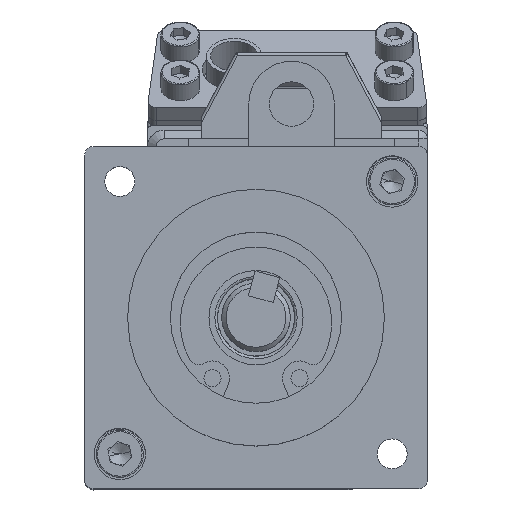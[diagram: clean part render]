
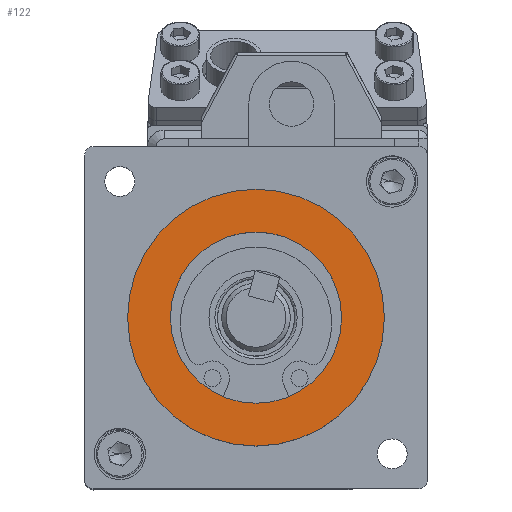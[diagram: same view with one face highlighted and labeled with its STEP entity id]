
A CAD part, top view. The second image highlights one B-rep face of the part: STEP entity #122.
In plain terms, the highlighted planar face has unit normal (0, 0, 1).
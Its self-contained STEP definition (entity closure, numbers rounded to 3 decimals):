
#87 = EDGE_CURVE ( 'NONE', #91, #98, #5410, .T. ) ;
#91 = VERTEX_POINT ( 'NONE', #5464 ) ;
#97 = EDGE_CURVE ( 'NONE', #98, #91, #5454, .T. ) ;
#98 = VERTEX_POINT ( 'NONE', #5449 ) ;
#104 = VERTEX_POINT ( 'NONE', #5437 ) ;
#107 = EDGE_CURVE ( 'NONE', #108, #104, #5360, .T. ) ;
#108 = VERTEX_POINT ( 'NONE', #5355 ) ;
#122 = ADVANCED_FACE ( 'NONE', ( #5266, #5265 ), #5264, .T. ) ;
#123 = ORIENTED_EDGE ( 'NONE', *, *, #107, .F. ) ;
#124 = ORIENTED_EDGE ( 'NONE', *, *, #125, .F. ) ;
#125 = EDGE_CURVE ( 'NONE', #104, #108, #5258, .T. ) ;
#126 = EDGE_LOOP ( 'NONE', ( #127, #128 ) ) ;
#127 = ORIENTED_EDGE ( 'NONE', *, *, #87, .T. ) ;
#128 = ORIENTED_EDGE ( 'NONE', *, *, #97, .T. ) ;
#328 = EDGE_LOOP ( 'NONE', ( #123, #124 ) ) ;
#5255 = DIRECTION ( 'NONE',  ( -1., 0., 0. ) ) ;
#5256 = DIRECTION ( 'NONE',  ( 0., 0., -1. ) ) ;
#5257 = AXIS2_PLACEMENT_3D ( 'NONE', #5262, #5256, #5255 ) ;
#5258 = CIRCLE ( 'NONE', #5257, 15. ) ;
#5259 = DIRECTION ( 'NONE',  ( 1., 0., 0. ) ) ;
#5260 = DIRECTION ( 'NONE',  ( 0., 0., 1. ) ) ;
#5261 = AXIS2_PLACEMENT_3D ( 'NONE', #5263, #5260, #5259 ) ;
#5262 = CARTESIAN_POINT ( 'NONE',  ( 68.478, 20., 115.595 ) ) ;
#5263 = CARTESIAN_POINT ( 'NONE',  ( 68.478, 20., 115.595 ) ) ;
#5264 = PLANE ( 'NONE',  #5261 ) ;
#5265 = FACE_BOUND ( 'NONE', #126, .T. ) ;
#5266 = FACE_OUTER_BOUND ( 'NONE', #328, .T. ) ;
#5355 = CARTESIAN_POINT ( 'NONE',  ( 53.478, 20., 115.595 ) ) ;
#5356 = DIRECTION ( 'NONE',  ( -1., 0., 0. ) ) ;
#5357 = DIRECTION ( 'NONE',  ( 0., 0., -1. ) ) ;
#5358 = CARTESIAN_POINT ( 'NONE',  ( 68.478, 20., 115.595 ) ) ;
#5359 = AXIS2_PLACEMENT_3D ( 'NONE', #5358, #5357, #5356 ) ;
#5360 = CIRCLE ( 'NONE', #5359, 15. ) ;
#5407 = DIRECTION ( 'NONE',  ( 0., 0., -1. ) ) ;
#5408 = CARTESIAN_POINT ( 'NONE',  ( 68.478, 20., 115.595 ) ) ;
#5409 = AXIS2_PLACEMENT_3D ( 'NONE', #5408, #5407, #5467 ) ;
#5410 = CIRCLE ( 'NONE', #5409, 10. ) ;
#5437 = CARTESIAN_POINT ( 'NONE',  ( 83.478, 20., 115.595 ) ) ;
#5449 = CARTESIAN_POINT ( 'NONE',  ( 78.478, 20., 115.595 ) ) ;
#5450 = DIRECTION ( 'NONE',  ( -1., 0., 0. ) ) ;
#5451 = DIRECTION ( 'NONE',  ( 0., 0., -1. ) ) ;
#5452 = CARTESIAN_POINT ( 'NONE',  ( 68.478, 20., 115.595 ) ) ;
#5453 = AXIS2_PLACEMENT_3D ( 'NONE', #5452, #5451, #5450 ) ;
#5454 = CIRCLE ( 'NONE', #5453, 10. ) ;
#5464 = CARTESIAN_POINT ( 'NONE',  ( 58.478, 20., 115.595 ) ) ;
#5467 = DIRECTION ( 'NONE',  ( -1., 0., 0. ) ) ;
